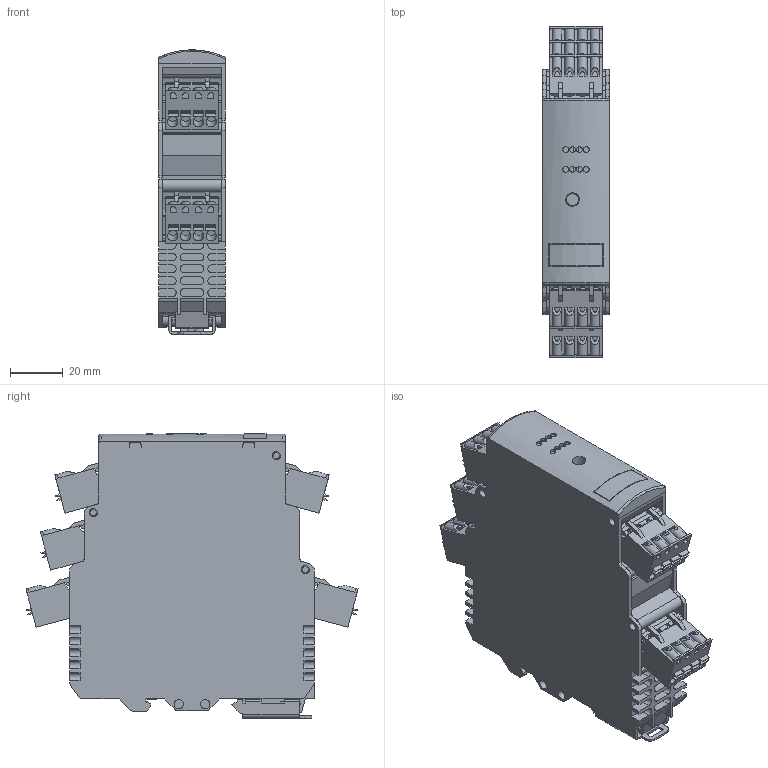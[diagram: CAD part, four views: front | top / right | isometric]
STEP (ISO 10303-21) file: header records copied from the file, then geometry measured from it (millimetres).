
FILE_DESCRIPTION( ( 'STEP AP203' ), ' ' );
FILE_NAME( 'p:/temp/worker_1429/1864_2068/app_43_02018042612341517362191192d056f_000000_00_00_000000/format_0/AC3216.stp', '2018-04-26T10:34:19', ( '' ), ( '' ), ' ', 'PARTsolutions', ' ' );
FILE_SCHEMA( ( 'CONFIG_CONTROL_DESIGN' ) );
Length unit declared in the file: millimetre
Products named in the file (1): _AC3216
Bounding box: 25.4 x 126.04 x 107.88 mm (x, y, z)
Volume: 228264.5 mm3; surface area: 46123.5 mm2
Topology: 1 solids, 1 shells, 1288 faces, 3703 edges, 2437 vertices
Faces by surface type: plane 1089, cylinder 189, cone 8, torus 2
Full cylindrical faces by diameter (mm): 2.22 x8, 3.5 x2, 4 x20, 4.1 x1
Entity records: 41847 total; most frequent: CARTESIAN_POINT 7727, ORIENTED_EDGE 7304, DIRECTION 6689, EDGE_CURVE 3652, LINE 3157, VECTOR 3157, VERTEX_POINT 2426, AXIS2_PLACEMENT_3D 1766
